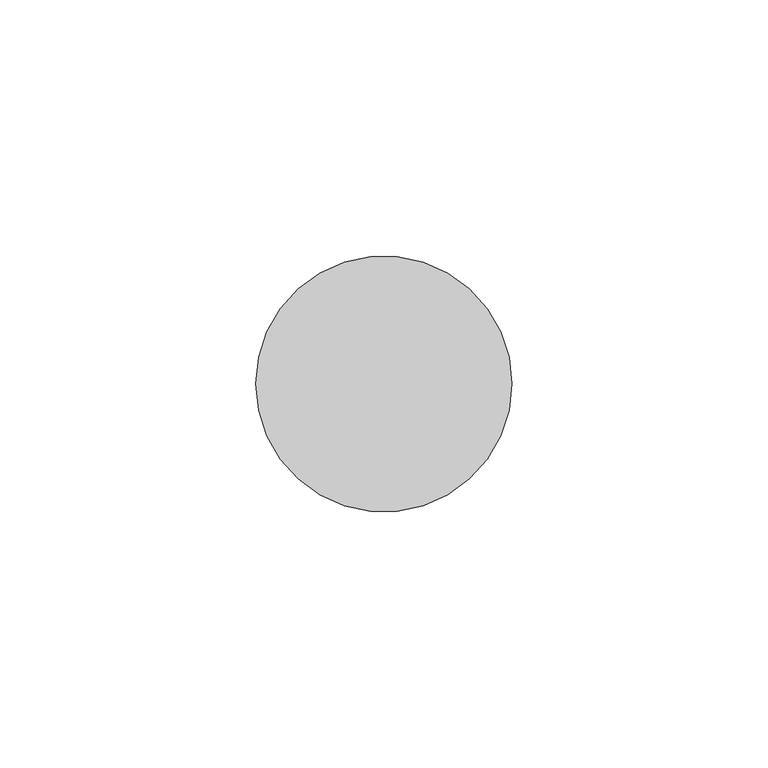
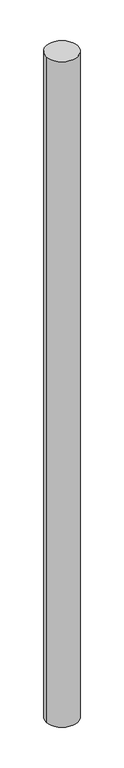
"""IFC4 building model written with IfcOpenShell, lengths in millimetres: member geometry, 圓形豎框 : 25mm 半徑."""

from ifc_helpers import new_model, si_unit, point, frame, origin, origin_2d, place, context, project, spatial, circle_curve, trimmed, segment, composite_curve, outline, extrude, source, transform, mapped, element, save


def member_23e6b94c(model_context):
    return source(origin(), model_context, "Body", "SweptSolid", [
        extrude(outline(composite_curve([segment(trimmed(circle_curve(origin_2d(), 25.0), [point((25.0, 0.0))], [point((-25.0, 0.0))], False, "CARTESIAN"), True, "CONTINUOUS"), segment(trimmed(circle_curve(origin_2d(), 25.0), [point((-25.0, 0.0))], [point((25.0, 0.0))], False, "CARTESIAN"), True, "CONTINUOUS")], self_intersect=False)), frame((0.0, 0.0, -1103.6719704), z_axis=(0.0, 0.0, 1.0), x_axis=(1.0, 0.0, 0.0)), (0.0, 0.0, 1.0), 1103.6719704),
    ])


if __name__ == "__main__":
    model = new_model("IFC4")
    model_context = context("Model", 3, world=origin())
    ifc_project = project(units=[si_unit("LENGTHUNIT", "METRE", prefix="MILLI")], contexts=[model_context])
    site = spatial("IfcSite", under=ifc_project)
    building = spatial("IfcBuilding", under=site)
    placement = place(None, origin())
    member_shape = member_23e6b94c(model_context)
    element("IfcMember", 1, ObjectType="圓形豎框 : 25mm 半徑", at=placement, inside=building, context=model_context, shape_type="MappedRepresentation", body=[
        mapped(member_shape, transform((0.0, 0.0, 0.0), x_axis=(1.0, 0.0, 0.0), y_axis=(0.0, 1.0, 0.0), z_axis=(0.0, 0.0, 1.0))),
    ])
    save(model, "model.ifc")
